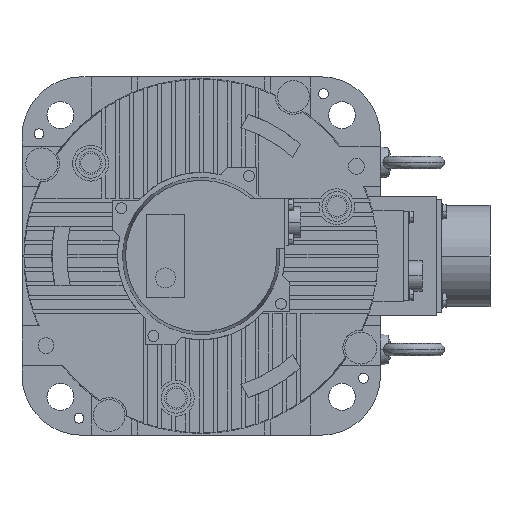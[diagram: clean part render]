
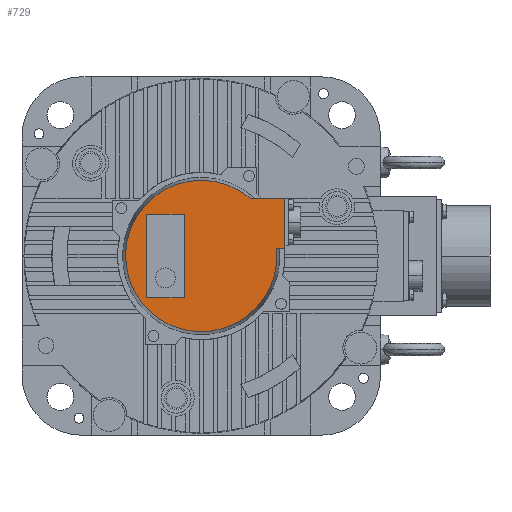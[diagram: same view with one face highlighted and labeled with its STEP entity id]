
A CAD part, left-side view. The second image highlights one B-rep face of the part: STEP entity #729.
In plain terms, the highlighted planar face has unit normal (-1, 0, 0).
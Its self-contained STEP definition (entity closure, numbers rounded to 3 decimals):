
#729=ADVANCED_FACE('',(#7227,#7228),#7226,.F.);
#7226=PLANE('',#13278);
#7227=FACE_OUTER_BOUND('',#13279,.T.);
#7228=FACE_BOUND('',#13280,.T.);
#13275=CARTESIAN_POINT('',(-263.,-52.891,71.254));
#13276=DIRECTION('',(1.,0.,0.));
#13277=DIRECTION('',(0.,0.,-1.));
#13278=AXIS2_PLACEMENT_3D('',#13275,#13276,#13277);
#13279=EDGE_LOOP('',(#18282,#18283,#18284,#18285));
#13280=EDGE_LOOP('',(#18286,#18287,#18288,#18289));
#18282=ORIENTED_EDGE('',*,*,#19597,.F.);
#18283=ORIENTED_EDGE('',*,*,#20073,.F.);
#18284=ORIENTED_EDGE('',*,*,#21660,.F.);
#18285=ORIENTED_EDGE('',*,*,#20065,.F.);
#18286=ORIENTED_EDGE('',*,*,#20451,.F.);
#18287=ORIENTED_EDGE('',*,*,#20455,.F.);
#18288=ORIENTED_EDGE('',*,*,#20458,.F.);
#18289=ORIENTED_EDGE('',*,*,#20461,.F.);
#19597=EDGE_CURVE('',#22113,#22114,#22115,.T.);
#20065=EDGE_CURVE('',#22114,#25318,#25319,.T.);
#20073=EDGE_CURVE('',#25364,#22113,#25371,.T.);
#20451=EDGE_CURVE('',#27891,#27892,#27893,.T.);
#20455=EDGE_CURVE('',#27919,#27891,#27920,.T.);
#20458=EDGE_CURVE('',#27939,#27919,#27940,.T.);
#20461=EDGE_CURVE('',#27892,#27939,#27959,.T.);
#21660=EDGE_CURVE('',#25318,#25364,#35978,.T.);
#22113=VERTEX_POINT('',#37790);
#22114=VERTEX_POINT('',#37791);
#22115=CIRCLE('',#37795,38.);
#25318=VERTEX_POINT('',#39950);
#25319=LINE('',#39951,#39952);
#25364=VERTEX_POINT('',#39976);
#25371=LINE('',#39980,#39981);
#27891=VERTEX_POINT('',#41562);
#27892=VERTEX_POINT('',#41563);
#27893=LINE('',#41564,#41565);
#27919=VERTEX_POINT('',#41578);
#27920=LINE('',#41579,#41580);
#27939=VERTEX_POINT('',#41589);
#27940=LINE('',#41590,#41591);
#27959=LINE('',#41600,#41601);
#35978=LINE('',#46492,#46493);
#37790=CARTESIAN_POINT('',(-263.,-37.789,4.));
#37791=CARTESIAN_POINT('',(-263.,-24.556,29.));
#37792=CARTESIAN_POINT('',(-263.,0.,0.));
#37793=DIRECTION('',(1.,0.,0.));
#37794=DIRECTION('',(0.,-0.994,0.105));
#37795=AXIS2_PLACEMENT_3D('',#37792,#37793,#37794);
#39950=CARTESIAN_POINT('',(-263.,-42.,29.));
#39951=CARTESIAN_POINT('',(-263.,-24.556,29.));
#39952=VECTOR('',#39953,17.444);
#39953=DIRECTION('',(0.,-1.,0.));
#39976=CARTESIAN_POINT('',(-263.,-42.,4.));
#39980=CARTESIAN_POINT('',(-263.,-42.,4.));
#39981=VECTOR('',#39982,4.211);
#39982=DIRECTION('',(0.,1.,0.));
#41562=CARTESIAN_POINT('',(-263.,8.5,-21.));
#41563=CARTESIAN_POINT('',(-263.,8.5,21.));
#41564=CARTESIAN_POINT('',(-263.,8.5,-21.));
#41565=VECTOR('',#41566,42.);
#41566=DIRECTION('',(0.,0.,1.));
#41578=CARTESIAN_POINT('',(-263.,27.5,-21.));
#41579=CARTESIAN_POINT('',(-263.,27.5,-21.));
#41580=VECTOR('',#41581,19.);
#41581=DIRECTION('',(0.,-1.,0.));
#41589=CARTESIAN_POINT('',(-263.,27.5,21.));
#41590=CARTESIAN_POINT('',(-263.,27.5,21.));
#41591=VECTOR('',#41592,42.);
#41592=DIRECTION('',(0.,0.,-1.));
#41600=CARTESIAN_POINT('',(-263.,8.5,21.));
#41601=VECTOR('',#41602,19.);
#41602=DIRECTION('',(0.,1.,0.));
#46492=CARTESIAN_POINT('',(-263.,-42.,29.));
#46493=VECTOR('',#46494,25.);
#46494=DIRECTION('',(0.,0.,-1.));
